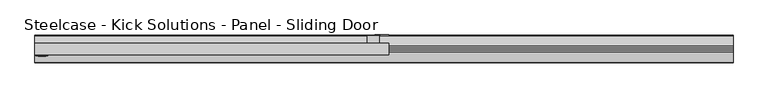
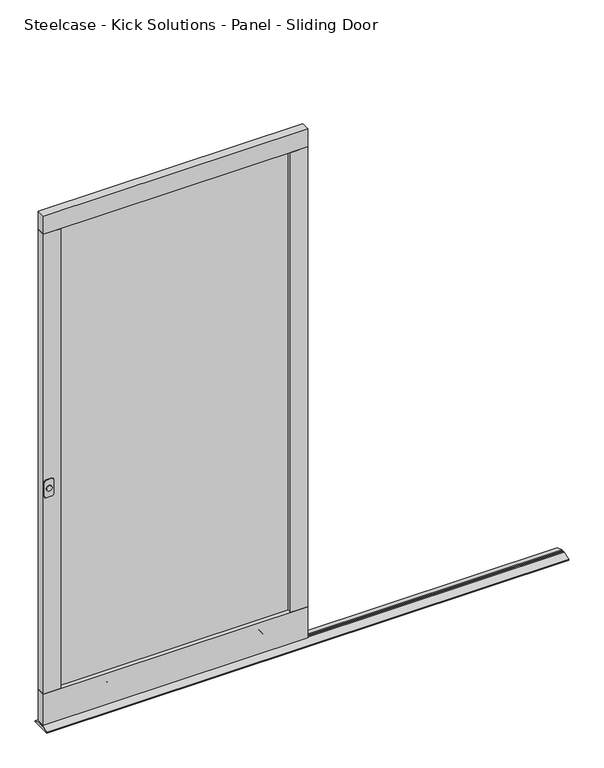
"""IFC4 building model written with IfcOpenShell, lengths in millimetres: furniture geometry, Steelcase - Kick Solutions - Panel - Sliding Door : 78H x 36W - Right Hand with Lock."""

from ifc_helpers import new_model, si_unit, point, frame, frame_2d, origin, place, context, project, spatial, polyline, circle_curve, trimmed, segment, composite_curve, outline, extrude, source, transform, mapped, element, save
from ifc_brep_helpers import plane_surface, cylinder_surface, advanced_brep


def steelcase_kick_solutions_panel_sliding_door_955193c8(model_context):
    return source(origin(), model_context, "Body", "SolidModel", [
        extrude(outline(composite_curve([segment(trimmed(circle_curve(frame_2d((927.2505008, 19.1322304)), 10.2804656), [point((937.5309664, 19.1322304))], [point((916.9700352, 19.1322304))], False, "CARTESIAN"), True, "CONTINUOUS"), segment(trimmed(circle_curve(frame_2d((927.2505008, 19.1322304)), 10.2804656), [point((916.9700352, 19.1322304))], [point((937.5309664, 19.1322304))], False, "CARTESIAN"), True, "CONTINUOUS")], self_intersect=False)), frame((0.0, -46.3394499, 0.0), z_axis=(0.0, 1.0, 0.0), x_axis=(0.0, 0.0, 1.0)), (0.0, 0.0, 1.0), 2.159),
        extrude(outline(composite_curve([segment(trimmed(circle_curve(frame_2d((954.4039028, 8.8899651)), 6.35), [point((960.7539028, 8.8899651))], [point((954.4039028, 2.5399651))], False, "CARTESIAN"), True, "CONTINUOUS"), segment(polyline([(954.4039028, 2.5399651), (899.7939028, 2.5399651)]), True, "CONTINUOUS"), segment(trimmed(circle_curve(frame_2d((899.7939028, 8.8899651)), 6.35), [point((899.7939028, 2.5399651))], [point((893.4439028, 8.8899651))], False, "CARTESIAN"), True, "CONTINUOUS"), segment(polyline([(893.4439028, 8.8899651), (893.4439028, 29.2099651)]), True, "CONTINUOUS"), segment(trimmed(circle_curve(frame_2d((899.7939028, 29.2099651)), 6.35), [point((893.4439028, 29.2099651))], [point((899.7939028, 35.5599651))], False, "CARTESIAN"), True, "CONTINUOUS"), segment(polyline([(899.7939028, 35.5599651), (954.4039028, 35.5599651)]), True, "CONTINUOUS"), segment(trimmed(circle_curve(frame_2d((954.4039028, 29.2099651)), 6.35), [point((954.4039028, 35.5599651))], [point((960.7539028, 29.2099651))], False, "CARTESIAN"), True, "CONTINUOUS"), segment(polyline([(960.7539028, 29.2099651), (960.7539028, 8.8899651)]), True, "CONTINUOUS")], self_intersect=False)), frame((0.0, -44.1804499, 0.0), z_axis=(0.0, 1.0, 0.0), x_axis=(0.0, 0.0, 1.0)), (0.0, 0.0, 1.0), 2.1118392),
        extrude(outline(composite_curve([segment(polyline([(1247.1399783, 926.9958938), (1247.1399783, 943.6915604)]), True, "CONTINUOUS"), segment(trimmed(circle_curve(frame_2d((1238.4356449, 943.6915604)), 8.7043334), [point((1247.1399783, 943.6915604))], [point((1238.4356449, 952.3958938))], True, "CARTESIAN"), True, "CONTINUOUS"), segment(polyline([(1238.4356449, 952.3958938), (1216.7613141, 952.3958938)]), True, "CONTINUOUS"), segment(trimmed(circle_curve(frame_2d((1216.7613141, 944.674558)), 7.7213358), [point((1216.7613141, 952.3958938))], [point((1209.0399783, 944.674558))], True, "CARTESIAN"), True, "CONTINUOUS"), segment(polyline([(1209.0399783, 944.674558), (1209.0399783, 926.9958938), (1196.3399783, 926.9958938), (1196.3399783, 943.4242308)]), True, "CONTINUOUS"), segment(trimmed(circle_curve(frame_2d((1218.1157475, 943.4242308)), 21.7757692), [point((1196.3399783, 943.4242308))], [point((1218.1157475, 965.2))], False, "CARTESIAN"), True, "CONTINUOUS"), segment(polyline([(1218.1157475, 965.2), (1237.34852, 965.2)]), True, "CONTINUOUS"), segment(trimmed(circle_curve(frame_2d((1237.34852, 942.7085417)), 22.4914583), [point((1237.34852, 965.2))], [point((1259.8399783, 942.7085417))], False, "CARTESIAN"), True, "CONTINUOUS"), segment(polyline([(1259.8399783, 942.7085417), (1259.8399783, 926.9958938), (1247.1399783, 926.9958938)]), True, "CONTINUOUS")], self_intersect=False)), frame((0.0, 9.7793101, 0.0), z_axis=(0.0, 1.0, 0.0), x_axis=(0.0, 0.0, 1.0)), (0.0, 0.0, 1.0), 2.1118397),
        extrude(outline(polyline([(939.8634651, -10.3186092), (906.8434651, -10.3186092), (906.8434651, 9.7793101), (939.8634651, 9.7793101), (939.8634651, -10.3186092)])), frame((0.0, 0.0, 1133.4739028), z_axis=(0.0, 0.0, 1.0), x_axis=(1.0, 0.0, 0.0)), (0.0, 0.0, 1.0), 196.85),
        advanced_brep(
        [(762.0000484, -18.7010906, 6.7959428), (762.0000484, -18.7010906, 108.3959428), (762.0000484, -18.7010906, 57.5959428), (762.0000484, -23.8703628, 6.7959428), (762.0000484, -23.8703628, 108.3959428), (762.0000484, -23.8703628, 57.5959428)],
        [
            (0, 1, circle_curve(frame((762.0000484, -18.7010906, 57.5959428), z_axis=(0.0, 1.0, 0.0), x_axis=(0.0, 0.0, 1.0)), 50.8)),
            (1, 2),
            (2, 0),
            (1, 0, circle_curve(frame((762.0000484, -18.7010906, 57.5959428), z_axis=(0.0, 1.0, 0.0), x_axis=(0.0, 0.0, 1.0)), 50.8)),
            (3, 4, circle_curve(frame((762.0000484, -23.8703628, 57.5959428), z_axis=(0.0, 1.0, 0.0), x_axis=(0.0, 0.0, 1.0)), 50.8)),
            (4, 1),
            (0, 3),
            (4, 3, circle_curve(frame((762.0000484, -23.8703628, 57.5959428), z_axis=(0.0, 1.0, 0.0), x_axis=(0.0, 0.0, 1.0)), 50.8)),
            (5, 4),
            (3, 5),
        ],
        [
            plane_surface(frame((762.0000484, -18.7010906, 57.5959428), z_axis=(0.0, 1.0, 0.0), x_axis=(0.0, 0.0, 1.0))),
            cylinder_surface(frame((762.0000484, -28.422537, 57.5959428), z_axis=(0.0, -1.0, 0.0), x_axis=(0.0, 0.0, 1.0)), 50.8),
            plane_surface(frame((762.0000484, -23.8703628, 57.5959428), z_axis=(0.0, -1.0, 0.0), x_axis=(0.0, 0.0, 1.0))),
        ],
        [
            (0, [[1, 2, 3]]),
            (0, [[4, -3, -2]]),
            (1, [[5, 6, -1, 7]]),
            (1, [[8, -7, -4, -6]]),
            (2, [[9, -5, 10]]),
            (2, [[-10, -8, -9]]),
        ],
    ),
        advanced_brep(
        [(762.0000484, -28.422537, 6.7959428), (762.0000484, -28.422537, 108.3959428), (762.0000484, -28.422537, 57.5959428), (762.0000484, -33.4459111, 6.7959428), (762.0000484, -33.4459111, 108.3959428), (762.0000484, -33.4459111, 57.5959428)],
        [
            (0, 1, circle_curve(frame((762.0000484, -28.422537, 57.5959428), z_axis=(0.0, 1.0, 0.0), x_axis=(0.0, 0.0, 1.0)), 50.8)),
            (1, 2),
            (2, 0),
            (1, 0, circle_curve(frame((762.0000484, -28.422537, 57.5959428), z_axis=(0.0, 1.0, 0.0), x_axis=(0.0, 0.0, 1.0)), 50.8)),
            (3, 4, circle_curve(frame((762.0000484, -33.4459111, 57.5959428), z_axis=(0.0, 1.0, 0.0), x_axis=(0.0, 0.0, 1.0)), 50.8)),
            (4, 1),
            (0, 3),
            (4, 3, circle_curve(frame((762.0000484, -33.4459111, 57.5959428), z_axis=(0.0, 1.0, 0.0), x_axis=(0.0, 0.0, 1.0)), 50.8)),
            (5, 4),
            (3, 5),
        ],
        [
            plane_surface(frame((762.0000484, -28.422537, 57.5959428), z_axis=(0.0, 1.0, 0.0), x_axis=(0.0, 0.0, 1.0))),
            cylinder_surface(frame((762.0000484, -28.422537, 57.5959428), z_axis=(0.0, -1.0, 0.0), x_axis=(0.0, 0.0, 1.0)), 50.8),
            plane_surface(frame((762.0000484, -33.4459111, 57.5959428), z_axis=(0.0, -1.0, 0.0), x_axis=(0.0, 0.0, 1.0))),
        ],
        [
            (0, [[1, 2, 3]]),
            (0, [[4, -3, -2]]),
            (1, [[5, 6, -1, 7]]),
            (1, [[8, -7, -4, -6]]),
            (2, [[9, -5, 10]]),
            (2, [[-10, -8, -9]]),
        ],
    ),
        advanced_brep(
        [(203.2000484, -18.7010906, 6.7959428), (203.2000484, -18.7010906, 108.3959428), (203.2000484, -18.7010906, 57.5959428), (203.2000484, -23.8703628, 6.7959428), (203.2000484, -23.8703628, 108.3959428), (203.2000484, -23.8703628, 57.5959428)],
        [
            (0, 1, circle_curve(frame((203.2000484, -18.7010906, 57.5959428), z_axis=(0.0, 1.0, 0.0), x_axis=(0.0, 0.0, 1.0)), 50.8)),
            (1, 2),
            (2, 0),
            (1, 0, circle_curve(frame((203.2000484, -18.7010906, 57.5959428), z_axis=(0.0, 1.0, 0.0), x_axis=(0.0, 0.0, 1.0)), 50.8)),
            (3, 4, circle_curve(frame((203.2000484, -23.8703628, 57.5959428), z_axis=(0.0, 1.0, 0.0), x_axis=(0.0, 0.0, 1.0)), 50.8)),
            (4, 1),
            (0, 3),
            (4, 3, circle_curve(frame((203.2000484, -23.8703628, 57.5959428), z_axis=(0.0, 1.0, 0.0), x_axis=(0.0, 0.0, 1.0)), 50.8)),
            (5, 4),
            (3, 5),
        ],
        [
            plane_surface(frame((203.2000484, -18.7010906, 57.5959428), z_axis=(0.0, 1.0, 0.0), x_axis=(0.0, 0.0, 1.0))),
            cylinder_surface(frame((203.2000484, -28.422537, 57.5959428), z_axis=(0.0, -1.0, 0.0), x_axis=(0.0, 0.0, 1.0)), 50.8),
            plane_surface(frame((203.2000484, -23.8703628, 57.5959428), z_axis=(0.0, -1.0, 0.0), x_axis=(0.0, 0.0, 1.0))),
        ],
        [
            (0, [[1, 2, 3]]),
            (0, [[4, -3, -2]]),
            (1, [[5, 6, -1, 7]]),
            (1, [[8, -7, -4, -6]]),
            (2, [[9, -5, 10]]),
            (2, [[-10, -8, -9]]),
        ],
    ),
        advanced_brep(
        [(203.2000484, -28.422537, 6.7959428), (203.2000484, -28.422537, 108.3959428), (203.2000484, -28.422537, 57.5959428), (203.2000484, -33.4459111, 6.7959428), (203.2000484, -33.4459111, 108.3959428), (203.2000484, -33.4459111, 57.5959428)],
        [
            (0, 1, circle_curve(frame((203.2000484, -28.422537, 57.5959428), z_axis=(0.0, 1.0, 0.0), x_axis=(0.0, 0.0, 1.0)), 50.8)),
            (1, 2),
            (2, 0),
            (1, 0, circle_curve(frame((203.2000484, -28.422537, 57.5959428), z_axis=(0.0, 1.0, 0.0), x_axis=(0.0, 0.0, 1.0)), 50.8)),
            (3, 4, circle_curve(frame((203.2000484, -33.4459111, 57.5959428), z_axis=(0.0, 1.0, 0.0), x_axis=(0.0, 0.0, 1.0)), 50.8)),
            (4, 1),
            (0, 3),
            (4, 3, circle_curve(frame((203.2000484, -33.4459111, 57.5959428), z_axis=(0.0, 1.0, 0.0), x_axis=(0.0, 0.0, 1.0)), 50.8)),
            (5, 4),
            (3, 5),
        ],
        [
            plane_surface(frame((203.2000484, -28.422537, 57.5959428), z_axis=(0.0, 1.0, 0.0), x_axis=(0.0, 0.0, 1.0))),
            cylinder_surface(frame((203.2000484, -28.422537, 57.5959428), z_axis=(0.0, -1.0, 0.0), x_axis=(0.0, 0.0, 1.0)), 50.8),
            plane_surface(frame((203.2000484, -33.4459111, 57.5959428), z_axis=(0.0, -1.0, 0.0), x_axis=(0.0, 0.0, 1.0))),
        ],
        [
            (0, [[1, 2, 3]]),
            (0, [[4, -3, -2]]),
            (1, [[5, 6, -1, 7]]),
            (1, [[8, -7, -4, -6]]),
            (2, [[9, -5, 10]]),
            (2, [[-10, -8, -9]]),
        ],
    ),
        extrude(outline(polyline([(63.5000484, -42.0686107), (0.0, -42.0686107), (0.0, -10.3186092), (63.5000484, -10.3186092), (63.5000484, -42.0686107)])), frame((0.0, 0.0, 137.1589063), z_axis=(0.0, 0.0, 1.0), x_axis=(1.0, 0.0, 0.0)), (0.0, 0.0, 1.0), 1774.1911421),
        extrude(outline(polyline([(965.2, -42.0686107), (901.7000484, -42.0686107), (901.7000484, -10.3186092), (965.2, -10.3186092), (965.2, -42.0686107)])), frame((0.0, 0.0, 137.1589063), z_axis=(0.0, 0.0, 1.0), x_axis=(1.0, 0.0, 0.0)), (0.0, 0.0, 1.0), 1774.1911421),
        extrude(outline(polyline([(-24.2505784, 6.2879429), (-17.9005799, 6.2879429), (-17.9005799, 12.2490843), (10.0049365, 3.0138476), (11.9383101, 0.0), (-64.2312094, 0.0), (-62.2978359, 3.0138476), (-34.3923194, 12.2490843), (-34.3923194, 6.2879429), (-28.042321, 6.2879429), (-28.042321, 12.6379425), (-24.2505784, 12.6379425), (-24.2505784, 6.2879429)])), frame((0.0, 0.0, 0.0), z_axis=(1.0, 0.0, 0.0), x_axis=(0.0, 1.0, 0.0)), (0.0, 0.0, 1.0), 1905.0),
        extrude(outline(polyline([(965.2, -10.3186092), (965.2, -42.0686107), (0.0, -42.0686107), (0.0, -10.3186092), (965.2, -10.3186092)])), frame((0.0, 0.0, 16.5089033), z_axis=(0.0, 0.0, 1.0), x_axis=(1.0, 0.0, 0.0)), (0.0, 0.0, 1.0), 120.650003),
        extrude(outline(polyline([(965.2, -10.3186092), (965.2, -42.0686107), (0.0, -42.0686107), (0.0, -10.3186092), (965.2, -10.3186092)])), frame((0.0, 0.0, 1911.3500484), z_axis=(0.0, 0.0, 1.0), x_axis=(1.0, 0.0, 0.0)), (0.0, 0.0, 1.0), 69.8499516),
        extrude(outline(polyline([(901.7000484, -27.6369762), (63.5000484, -27.6369762), (63.5000484, -24.6559232), (901.7000484, -24.6559232), (901.7000484, -27.6369762)])), frame((0.0, 0.0, 137.1589063), z_axis=(0.0, 0.0, 1.0), x_axis=(1.0, 0.0, 0.0)), (0.0, 0.0, 1.0), 1774.1911421),
    ])


if __name__ == "__main__":
    model = new_model("IFC4")
    model_context = context("Model", 3, world=origin())
    ifc_project = project(units=[si_unit("LENGTHUNIT", "METRE", prefix="MILLI")], contexts=[model_context])
    site = spatial("IfcSite", under=ifc_project)
    building = spatial("IfcBuilding", under=site)
    placement = place(None, origin())
    steelcase_kick_solutions_panel_sliding_door_shape = steelcase_kick_solutions_panel_sliding_door_955193c8(model_context)
    element("IfcFurniture", 1, ObjectType="Steelcase - Kick Solutions - Panel - Sliding Door : 78H x 36W - Right Hand with Lock", at=placement, inside=building, context=model_context, shape_type="MappedRepresentation", body=[
        mapped(steelcase_kick_solutions_panel_sliding_door_shape, transform((0.0, 0.0, 0.0), x_axis=(1.0, 0.0, 0.0), y_axis=(0.0, 1.0, 0.0), z_axis=(0.0, 0.0, 1.0))),
    ])
    save(model, "model.ifc")
